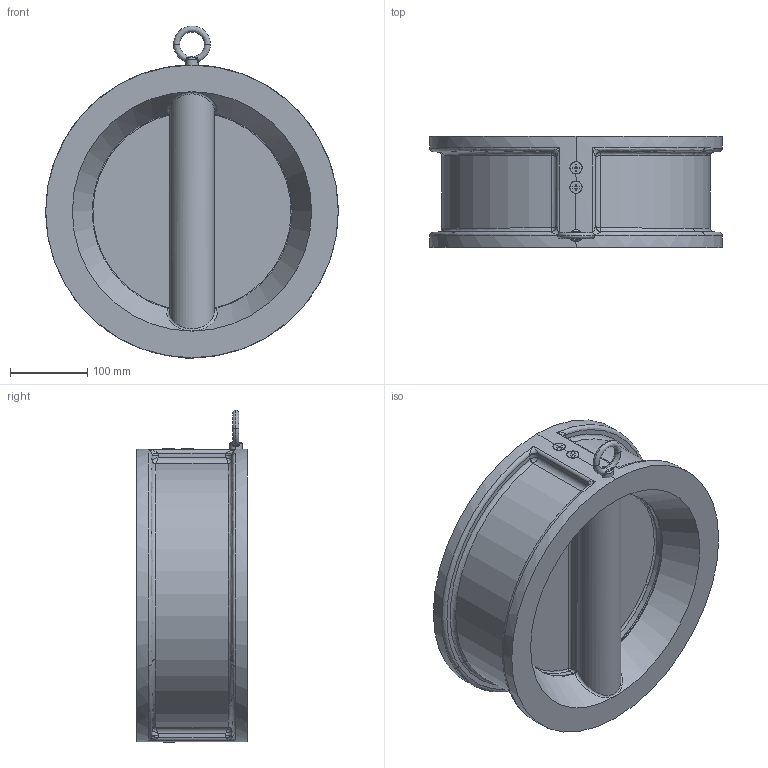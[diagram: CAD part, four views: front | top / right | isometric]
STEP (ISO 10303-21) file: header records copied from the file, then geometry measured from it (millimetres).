
FILE_DESCRIPTION (( 'STEP AP203' ), '1' );
FILE_NAME ('00.STEP', '2017-04-02T09:59:54', ( 'User' ), ( 'shendu' ), 'SwSTEP 2.0', 'SolidWorks 2015', '' );
FILE_SCHEMA (( 'CONFIG_CONTROL_DESIGN' ));
Products named in the file (1): 00
Bounding box: 380 x 144 x 431.01 mm (x, y, z)
Volume: 5193071.7 mm3; surface area: 787759.6 mm2
Topology: 17 solids, 17 shells, 501 faces, 1195 edges, 693 vertices
Faces by surface type: cylinder 170, bspline 168, plane 130, cone 33
Entity records: 176446 total; most frequent: CARTESIAN_POINT 165989, ORIENTED_EDGE 2340, DIRECTION 1866, EDGE_CURVE 1170, AXIS2_PLACEMENT_3D 699, VERTEX_POINT 693, EDGE_LOOP 525, ADVANCED_FACE 501
